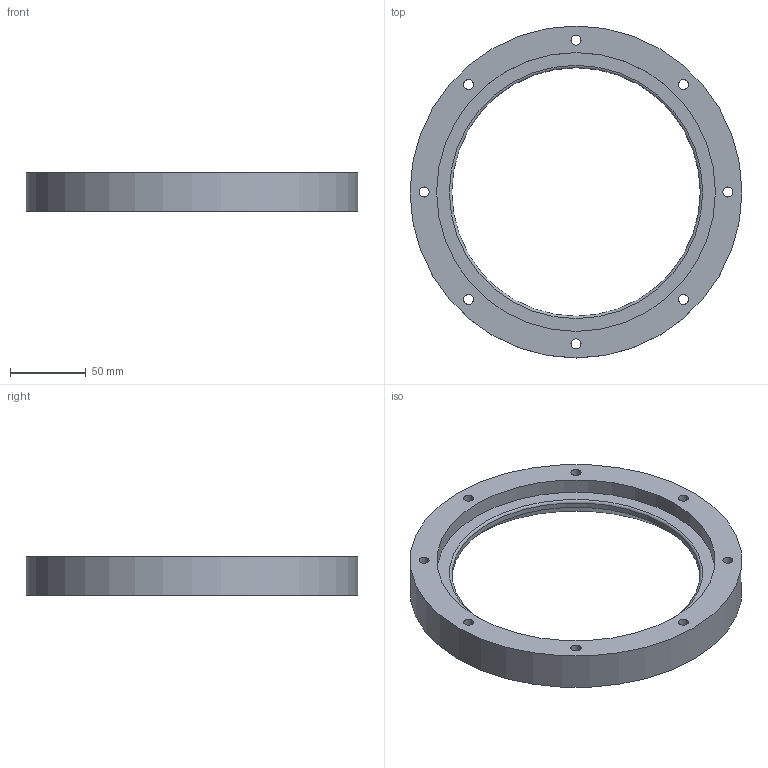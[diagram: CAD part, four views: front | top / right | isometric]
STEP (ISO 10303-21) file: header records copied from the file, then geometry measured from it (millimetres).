
FILE_DESCRIPTION( ( 'Unknown' ), '1' );
FILE_NAME( 'C:/Users/Lee/Documents/HGC Work/Solid Edge/heavy_gas_cherenkov_v5/step/quartz_holder.stp', 'Unknown', ( 'Unknown' ), ( 'Unknown' ), 'PSStep 13.0', 'Unknown', ' ' );
FILE_SCHEMA( ( 'AUTOMOTIVE_DESIGN { 1 0 10303 214 1 1 1 1 }' ) );
Length unit declared in the file: millimetre
Products named in the file (1): 1
Bounding box: 219.07 x 219.07 x 25.4 mm (x, y, z)
Volume: 323675.5 mm3; surface area: 65933.4 mm2
Topology: 1 solids, 1 shells, 32 faces, 69 edges, 48 vertices
Faces by surface type: cylinder 19, plane 11, torus 1, cone 1
Full cylindrical faces by diameter (mm): 6.647 x8, 13 x8, 164 x1, 184 x1, 219.075 x1
Entity records: 1032 total; most frequent: DIRECTION 146, CARTESIAN_POINT 113, EDGE_LOOP 80, ORIENTED_EDGE 80, AXIS2_PLACEMENT_3D 73, FACE_OUTER_BOUND 52, EDGE_CURVE 40, VERTEX_POINT 40
